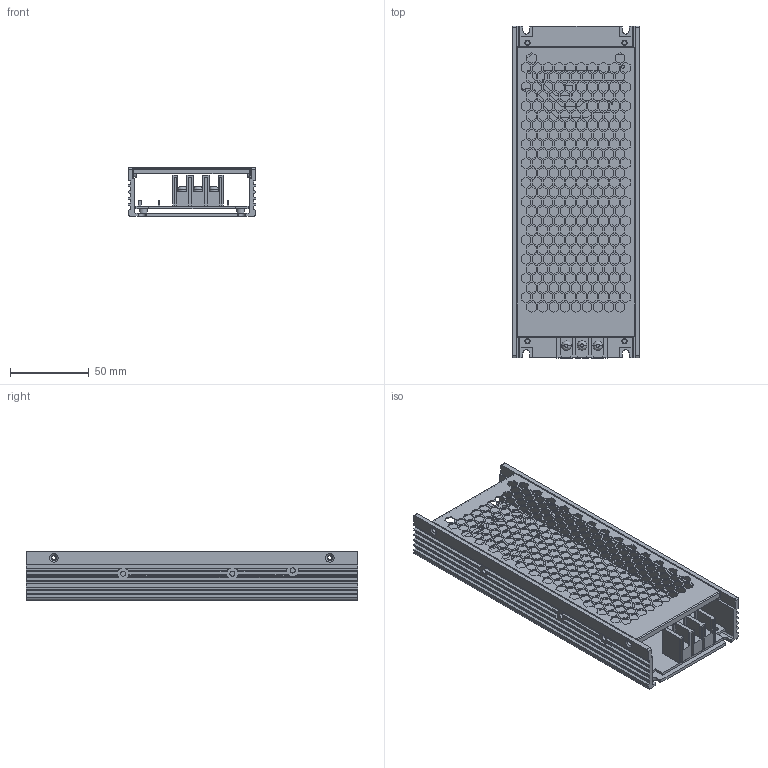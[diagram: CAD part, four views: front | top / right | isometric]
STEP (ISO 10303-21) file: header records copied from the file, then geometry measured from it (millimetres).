
FILE_DESCRIPTION((''),'2;1');
FILE_NAME('HSN-300-13_ASM','2020-06-12T11:02:21',('shalinice'),(''),'CREO PARAMETRIC BY PTC INC, 2016390','CREO PARAMETRIC BY PTC INC, 2016390','');
FILE_SCHEMA(('AUTOMOTIVE_DESIGN { 1 0 10303 214 1 1 1 1 }'));
Products named in the file (13): TB1; PCB; HSN-300A-T; HS-GZ147; HS-GZ146; TZ; TZ_1; TZ_2; TZ_3; TTZ_ASM; HSN-300A-D; BASE_ASM; HSN-300-13_ASM
Assembly tree (12 placements, depth 4):
  HSN-300-13_ASM
    TB1
    PCB
    HSN-300A-T
    HS-GZ147
    HS-GZ146
    BASE_ASM
      TTZ_ASM
        TZ
        TZ_1
        TZ_2
        TZ_3
      HSN-300A-D
Bounding box: 81 x 210.25 x 31 mm (x, y, z)
Volume: 105772.8 mm3; surface area: 121038.7 mm2
Topology: 10 solids, 10 shells, 1956 faces, 5788 edges, 3855 vertices
Faces by surface type: plane 1791, cylinder 135, cone 16, torus 8, bspline 6
Entity records: 83742 total; most frequent: CARTESIAN_POINT 11911, ORIENTED_EDGE 11576, DIRECTION 10065, PRESENTATION_STYLE_ASSIGNMENT 5798, STYLED_ITEM 5798, CURVE_STYLE 5788, EDGE_CURVE 5788, VECTOR 5411
